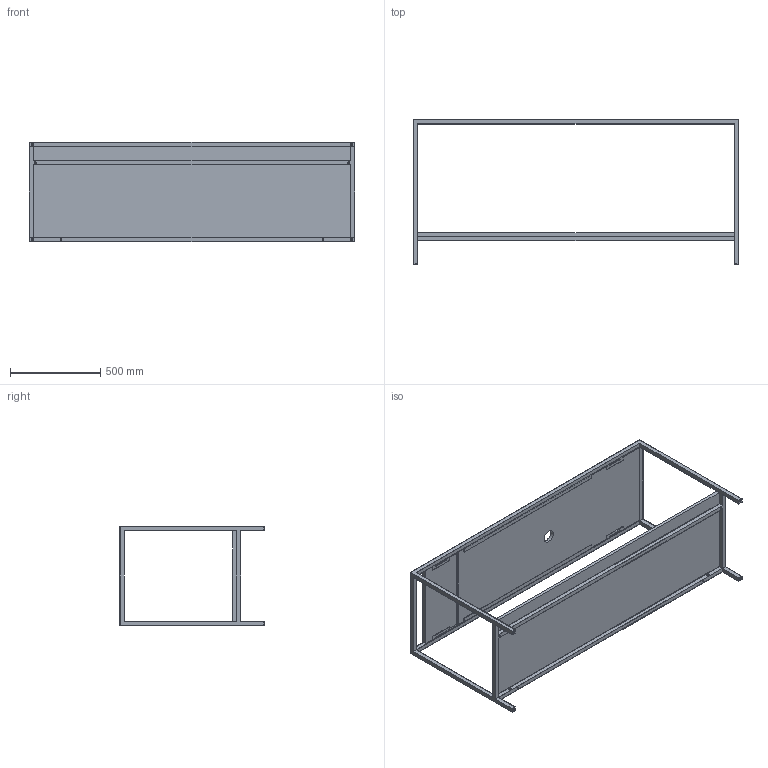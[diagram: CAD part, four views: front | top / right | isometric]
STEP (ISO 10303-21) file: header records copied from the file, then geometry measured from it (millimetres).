
FILE_DESCRIPTION (( 'STEP AP203' ), '1' );
FILE_NAME ('STP 180 02.STEP', '2019-02-04T14:24:00', ( '' ), ( '' ), 'SwSTEP 2.0', 'SolidWorks 2019', '' );
FILE_SCHEMA (( 'CONFIG_CONTROL_DESIGN' ));
Length unit declared in the file: millimetre
Products named in the file (5): PIANO180; struttura STAND180; PIANO MISURA 142 1f; PIANETTO; STP 180 02
Assembly tree (4 placements, depth 2):
  STP 180 02
    struttura STAND180
    PIANO MISURA 142 1f
    PIANETTO
    PIANO180
Bounding box: 1800 x 800 x 550 mm (x, y, z)
Volume: 34925125.2 mm3; surface area: 6116967.6 mm2
Topology: 4 solids, 4 shells, 197 faces, 530 edges, 332 vertices
Faces by surface type: plane 135, cylinder 54, torus 8
Entity records: 6711 total; most frequent: CARTESIAN_POINT 1066, ORIENTED_EDGE 1060, DIRECTION 1054, EDGE_CURVE 530, VECTOR 414, LINE 414, VERTEX_POINT 332, AXIS2_PLACEMENT_3D 320
